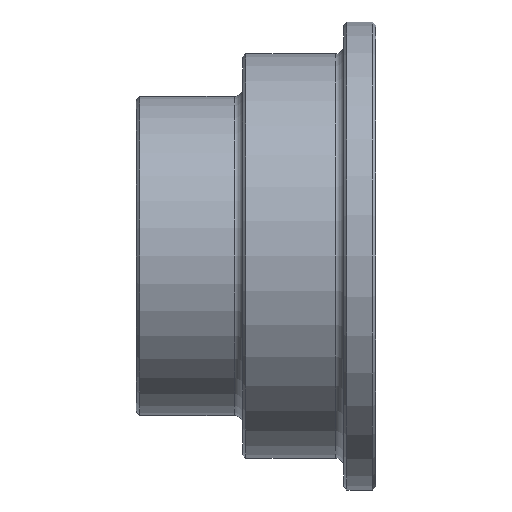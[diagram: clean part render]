
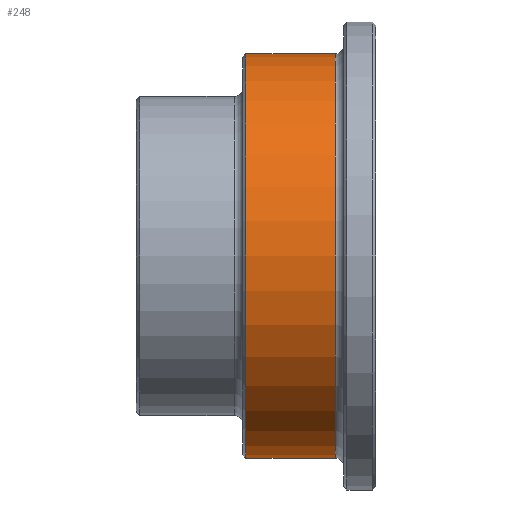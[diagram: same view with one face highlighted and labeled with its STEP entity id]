
A CAD part, front view. The second image highlights one B-rep face of the part: STEP entity #248.
In plain terms, the highlighted cylindrical face has radius 19 mm (diameter 38 mm), a full revolution.
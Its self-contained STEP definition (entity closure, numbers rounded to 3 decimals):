
#30=LINE('',#443,#40);
#40=VECTOR('',#356,19.);
#50=CYLINDRICAL_SURFACE('',#295,19.);
#57=FACE_OUTER_BOUND('',#74,.T.);
#74=EDGE_LOOP('',(#190,#191,#192,#193,#194,#195));
#96=CIRCLE('',#291,19.);
#99=CIRCLE('',#294,19.);
#100=CIRCLE('',#296,19.);
#101=CIRCLE('',#297,19.);
#120=VERTEX_POINT('',#434);
#121=VERTEX_POINT('',#435);
#123=VERTEX_POINT('',#442);
#124=VERTEX_POINT('',#444);
#145=EDGE_CURVE('',#120,#121,#96,.T.);
#148=EDGE_CURVE('',#121,#120,#99,.T.);
#149=EDGE_CURVE('',#120,#123,#30,.T.);
#150=EDGE_CURVE('',#124,#123,#100,.T.);
#151=EDGE_CURVE('',#123,#124,#101,.T.);
#190=ORIENTED_EDGE('',*,*,#145,.F.);
#191=ORIENTED_EDGE('',*,*,#149,.T.);
#192=ORIENTED_EDGE('',*,*,#150,.F.);
#193=ORIENTED_EDGE('',*,*,#151,.F.);
#194=ORIENTED_EDGE('',*,*,#149,.F.);
#195=ORIENTED_EDGE('',*,*,#148,.F.);
#248=ADVANCED_FACE('',(#57),#50,.T.);
#291=AXIS2_PLACEMENT_3D('',#436,#346,#347);
#294=AXIS2_PLACEMENT_3D('',#440,#352,#353);
#295=AXIS2_PLACEMENT_3D('',#441,#354,#355);
#296=AXIS2_PLACEMENT_3D('',#445,#357,#358);
#297=AXIS2_PLACEMENT_3D('',#446,#359,#360);
#346=DIRECTION('center_axis',(1.,0.,0.));
#347=DIRECTION('ref_axis',(0.,-1.,0.));
#352=DIRECTION('center_axis',(1.,0.,0.));
#353=DIRECTION('ref_axis',(0.,-1.,0.));
#354=DIRECTION('center_axis',(1.,0.,0.));
#355=DIRECTION('ref_axis',(0.,1.,0.));
#356=DIRECTION('',(-1.,0.,0.));
#357=DIRECTION('center_axis',(-1.,0.,0.));
#358=DIRECTION('ref_axis',(0.,-1.,0.));
#359=DIRECTION('center_axis',(-1.,0.,0.));
#360=DIRECTION('ref_axis',(0.,-1.,0.));
#434=CARTESIAN_POINT('',(-3.8,-19.,0.));
#435=CARTESIAN_POINT('',(-3.8,0.,19.));
#436=CARTESIAN_POINT('Origin',(-3.8,0.,0.));
#440=CARTESIAN_POINT('Origin',(-3.8,0.,0.));
#441=CARTESIAN_POINT('Origin',(-7.75,0.,0.));
#442=CARTESIAN_POINT('',(-12.2,-19.,0.));
#443=CARTESIAN_POINT('',(-7.75,-19.,0.));
#444=CARTESIAN_POINT('',(-12.2,19.,0.));
#445=CARTESIAN_POINT('Origin',(-12.2,0.,0.));
#446=CARTESIAN_POINT('Origin',(-12.2,0.,0.));
